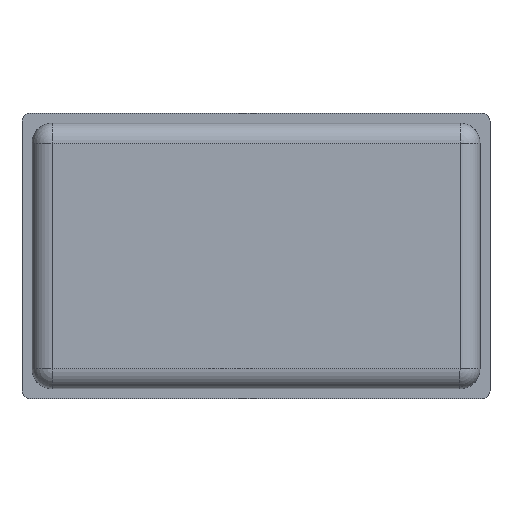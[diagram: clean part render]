
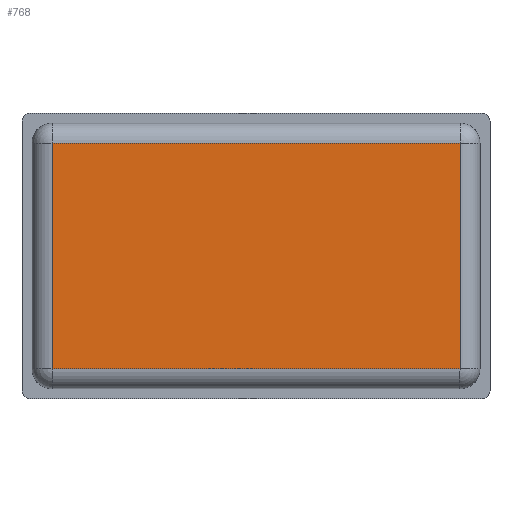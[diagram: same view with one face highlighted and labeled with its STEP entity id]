
A CAD part, front view. The second image highlights one B-rep face of the part: STEP entity #768.
In plain terms, the highlighted planar face has unit normal (0, -1, 0).
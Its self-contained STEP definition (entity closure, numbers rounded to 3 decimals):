
#78 = ORIENTED_EDGE ( 'NONE', *, *, #780, .T. ) ;
#109 = VERTEX_POINT ( 'NONE', #1080 ) ;
#114 = ORIENTED_EDGE ( 'NONE', *, *, #941, .T. ) ;
#149 = ORIENTED_EDGE ( 'NONE', *, *, #978, .T. ) ;
#248 = CARTESIAN_POINT ( 'NONE',  ( -25.5, -17.6, 14.1 ) ) ;
#252 = LINE ( 'NONE', #1190, #318 ) ;
#282 = DIRECTION ( 'NONE',  ( -1., 0., 0. ) ) ;
#299 = AXIS2_PLACEMENT_3D ( 'NONE', #697, #731, #704 ) ;
#318 = VECTOR ( 'NONE', #1210, 1000. ) ;
#344 = VERTEX_POINT ( 'NONE', #881 ) ;
#452 = VECTOR ( 'NONE', #282, 1000. ) ;
#469 = LINE ( 'NONE', #248, #452 ) ;
#523 = CARTESIAN_POINT ( 'NONE',  ( 25.5, -17.6, 14.1 ) ) ;
#524 = FACE_OUTER_BOUND ( 'NONE', #1009, .T. ) ;
#567 = VERTEX_POINT ( 'NONE', #1148 ) ;
#587 = VERTEX_POINT ( 'NONE', #523 ) ;
#619 = PLANE ( 'NONE',  #299 ) ;
#697 = CARTESIAN_POINT ( 'NONE',  ( 0., -17.6, 0. ) ) ;
#704 = DIRECTION ( 'NONE',  ( 0., 0., 1. ) ) ;
#720 = DIRECTION ( 'NONE',  ( 0., 0., -1. ) ) ;
#731 = DIRECTION ( 'NONE',  ( 0., 1., 0. ) ) ;
#768 = ADVANCED_FACE ( 'NONE', ( #524 ), #619, .F. ) ;
#780 = EDGE_CURVE ( 'NONE', #109, #344, #1109, .T. ) ;
#794 = LINE ( 'NONE', #822, #830 ) ;
#809 = ORIENTED_EDGE ( 'NONE', *, *, #837, .T. ) ;
#819 = DIRECTION ( 'NONE',  ( 1., 0., 0. ) ) ;
#822 = CARTESIAN_POINT ( 'NONE',  ( 25.5, -17.6, -14.1 ) ) ;
#830 = VECTOR ( 'NONE', #819, 1000. ) ;
#837 = EDGE_CURVE ( 'NONE', #344, #567, #794, .T. ) ;
#881 = CARTESIAN_POINT ( 'NONE',  ( -25.5, -17.6, -14.1 ) ) ;
#941 = EDGE_CURVE ( 'NONE', #587, #109, #469, .T. ) ;
#978 = EDGE_CURVE ( 'NONE', #567, #587, #252, .T. ) ;
#1009 = EDGE_LOOP ( 'NONE', ( #809, #149, #114, #78 ) ) ;
#1080 = CARTESIAN_POINT ( 'NONE',  ( -25.5, -17.6, 14.1 ) ) ;
#1109 = LINE ( 'NONE', #1181, #1170 ) ;
#1148 = CARTESIAN_POINT ( 'NONE',  ( 25.5, -17.6, -14.1 ) ) ;
#1170 = VECTOR ( 'NONE', #720, 1000. ) ;
#1181 = CARTESIAN_POINT ( 'NONE',  ( -25.5, -17.6, -14.1 ) ) ;
#1190 = CARTESIAN_POINT ( 'NONE',  ( 25.5, -17.6, 14.1 ) ) ;
#1210 = DIRECTION ( 'NONE',  ( 0., 0., 1. ) ) ;
